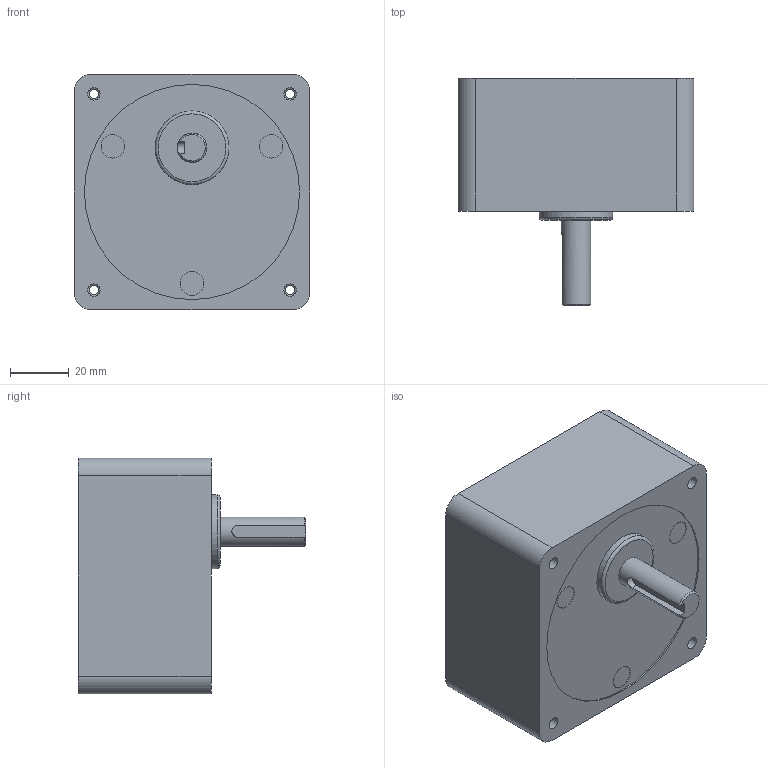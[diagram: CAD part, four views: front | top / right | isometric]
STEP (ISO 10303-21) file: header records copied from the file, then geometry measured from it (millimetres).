
FILE_DESCRIPTION((''),'2;1');
FILE_NAME('\\Servert1600\threepeace\2015homepage\STP\HP-Data_Gearhead_3D_STEP\DM-3.4.stp','2016-11-18T10:34:31',('Administrator'),(''),'Autodesk Inventor 2010','Autodesk Inventor 2010','');
FILE_SCHEMA(('AUTOMOTIVE_DESIGN { 1 0 10303 214 1 1 1 1 }'));
Length unit declared in the file: millimetre
Products named in the file (1): DM-3
Bounding box: 80 x 77 x 80 mm (x, y, z)
Volume: 273643.8 mm3; surface area: 31591.8 mm2
Topology: 2 solids, 2 shells, 43 faces, 99 edges, 66 vertices
Faces by surface type: plane 17, cylinder 12, bspline 12, torus 1, cone 1
Full cylindrical faces by diameter (mm): 8 x3, 10 x1, 25 x1, 73 x2
Entity records: 1265 total; most frequent: CARTESIAN_POINT 397, DIRECTION 171, ORIENTED_EDGE 140, EDGE_LOOP 77, AXIS2_PLACEMENT_3D 73, EDGE_CURVE 70, VERTEX_POINT 57, FACE_OUTER_BOUND 43
